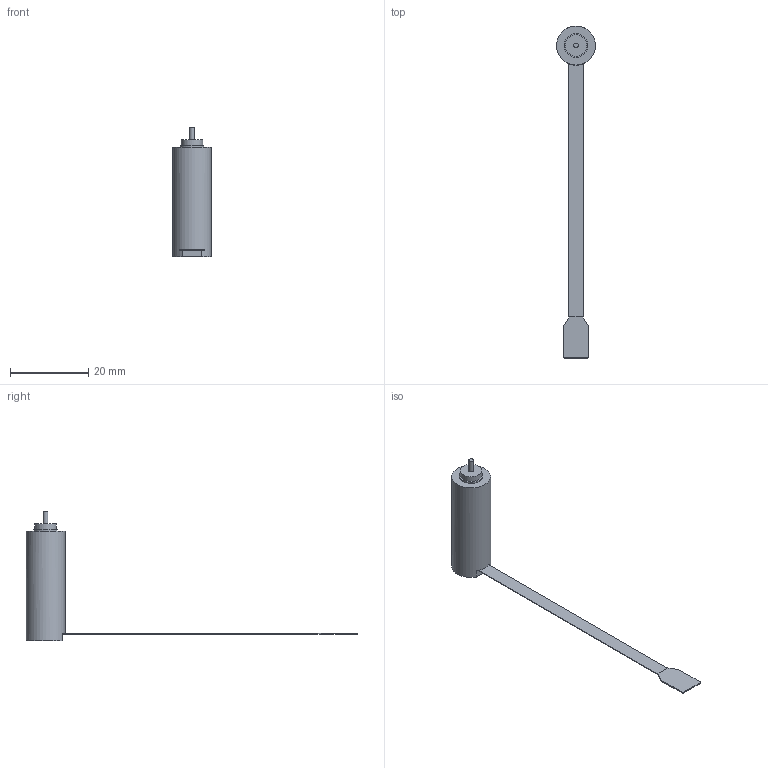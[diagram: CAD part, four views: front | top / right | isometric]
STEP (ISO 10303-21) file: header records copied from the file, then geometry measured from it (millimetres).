
FILE_DESCRIPTION((''),'2;1');
FILE_NAME('G:\Disegni\Progetti\D8500÷D8599\D8514\Motori\C - Motori Step\1028 STEP\1028SxxxB.stp','2013-05-03T12:54:41',('mangiullo'),(''),'Autodesk Inventor 2012','Autodesk Inventor 2012','');
FILE_SCHEMA(('AUTOMOTIVE_DESIGN { 1 0 10303 214 1 1 1 1 }'));
Length unit declared in the file: millimetre
Products named in the file (1): 1028SxxxB
Bounding box: 10 x 85 x 33.25 mm (x, y, z)
Volume: 2309.7 mm3; surface area: 1715.5 mm2
Topology: 1 solids, 1 shells, 74 faces, 202 edges, 134 vertices
Faces by surface type: plane 68, cylinder 6
Full cylindrical faces by diameter (mm): 1.2 x1, 5.5 x1, 6 x1, 10 x1
Entity records: 2395 total; most frequent: CARTESIAN_POINT 405, ORIENTED_EDGE 394, DIRECTION 360, EDGE_CURVE 197, VECTOR 184, LINE 184, VERTEX_POINT 133, AXIS2_PLACEMENT_3D 88
